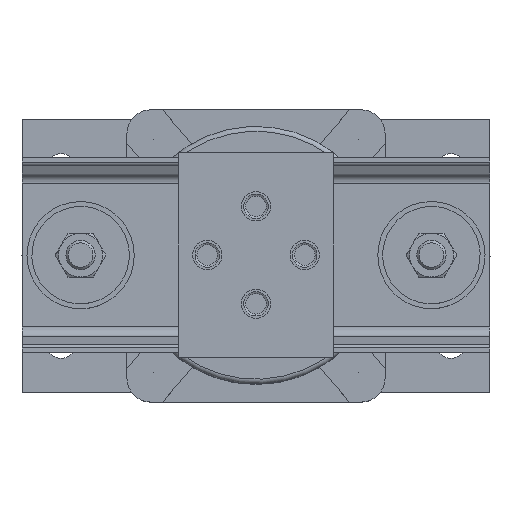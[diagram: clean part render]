
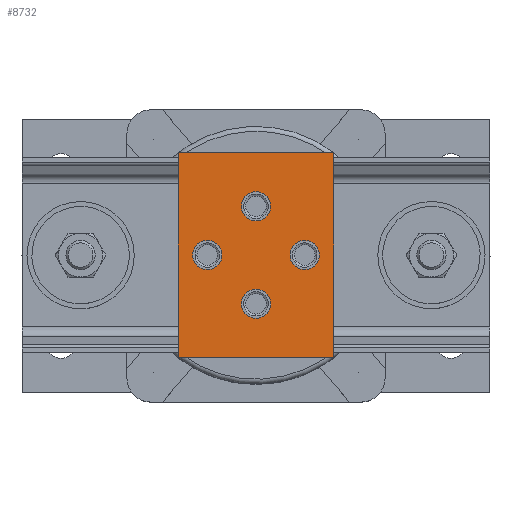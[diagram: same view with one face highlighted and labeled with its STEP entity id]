
A CAD part, top view. The second image highlights one B-rep face of the part: STEP entity #8732.
In plain terms, the highlighted planar face has unit normal (0, 0, 1).
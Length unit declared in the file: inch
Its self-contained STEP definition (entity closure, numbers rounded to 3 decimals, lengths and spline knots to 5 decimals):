
#360=LINE('',#13519,#902);
#364=LINE('',#13527,#906);
#367=LINE('',#13533,#909);
#370=LINE('',#13538,#912);
#902=VECTOR('',#10987,5.25);
#906=VECTOR('',#10993,4.);
#909=VECTOR('',#10998,5.25);
#912=VECTOR('',#11003,4.);
#1782=PLANE('',#9472);
#2022=FACE_BOUND('',#3001,.T.);
#2023=FACE_BOUND('',#3002,.T.);
#2024=FACE_BOUND('',#3003,.T.);
#2025=FACE_BOUND('',#3004,.T.);
#2376=FACE_OUTER_BOUND('',#3000,.T.);
#3000=EDGE_LOOP('',(#6665,#6666,#6667,#6668));
#3001=EDGE_LOOP('',(#6669));
#3002=EDGE_LOOP('',(#6670));
#3003=EDGE_LOOP('',(#6671));
#3004=EDGE_LOOP('',(#6672));
#3531=CIRCLE('',#9458,0.375);
#3533=CIRCLE('',#9461,0.375);
#3535=CIRCLE('',#9464,0.375);
#3537=CIRCLE('',#9467,0.375);
#4044=VERTEX_POINT('',#13499);
#4046=VERTEX_POINT('',#13504);
#4048=VERTEX_POINT('',#13509);
#4050=VERTEX_POINT('',#13514);
#4051=VERTEX_POINT('',#13517);
#4052=VERTEX_POINT('',#13518);
#4055=VERTEX_POINT('',#13526);
#4057=VERTEX_POINT('',#13532);
#4979=EDGE_CURVE('',#4044,#4044,#3531,.T.);
#4981=EDGE_CURVE('',#4046,#4046,#3533,.T.);
#4983=EDGE_CURVE('',#4048,#4048,#3535,.T.);
#4985=EDGE_CURVE('',#4050,#4050,#3537,.T.);
#4986=EDGE_CURVE('',#4051,#4052,#360,.T.);
#4990=EDGE_CURVE('',#4052,#4055,#364,.T.);
#4993=EDGE_CURVE('',#4055,#4057,#367,.T.);
#4996=EDGE_CURVE('',#4057,#4051,#370,.T.);
#6665=ORIENTED_EDGE('',*,*,#4986,.F.);
#6666=ORIENTED_EDGE('',*,*,#4996,.F.);
#6667=ORIENTED_EDGE('',*,*,#4993,.F.);
#6668=ORIENTED_EDGE('',*,*,#4990,.F.);
#6669=ORIENTED_EDGE('',*,*,#4979,.T.);
#6670=ORIENTED_EDGE('',*,*,#4981,.T.);
#6671=ORIENTED_EDGE('',*,*,#4983,.T.);
#6672=ORIENTED_EDGE('',*,*,#4985,.T.);
#8732=ADVANCED_FACE('',(#2376,#2022,#2023,#2024,#2025),#1782,.T.);
#9458=AXIS2_PLACEMENT_3D('',#13500,#10965,#10966);
#9461=AXIS2_PLACEMENT_3D('',#13505,#10971,#10972);
#9464=AXIS2_PLACEMENT_3D('',#13510,#10977,#10978);
#9467=AXIS2_PLACEMENT_3D('',#13515,#10983,#10984);
#9472=AXIS2_PLACEMENT_3D('',#13540,#11005,#11006);
#10965=DIRECTION('center_axis',(0.,0.,
-1.));
#10966=DIRECTION('ref_axis',(-1.,0.,0.));
#10971=DIRECTION('center_axis',(0.,0.,
-1.));
#10972=DIRECTION('ref_axis',(-1.,0.,0.));
#10977=DIRECTION('center_axis',(0.,0.,
-1.));
#10978=DIRECTION('ref_axis',(-1.,0.,0.));
#10983=DIRECTION('center_axis',(0.,0.,
-1.));
#10984=DIRECTION('ref_axis',(-1.,0.,0.));
#10987=DIRECTION('',(0.,1.,0.));
#10993=DIRECTION('',(1.,0.,0.));
#10998=DIRECTION('',(0.,-1.,0.));
#11003=DIRECTION('',(-1.,0.,0.));
#11005=DIRECTION('center_axis',(0.,0.,
1.));
#11006=DIRECTION('ref_axis',(-1.,0.,0.));
#13499=CARTESIAN_POINT('',(-0.375,1.25,15.125));
#13500=CARTESIAN_POINT('Origin',(0.,1.25,15.125));
#13504=CARTESIAN_POINT('',(-0.375,-1.25,15.125));
#13505=CARTESIAN_POINT('Origin',(0.,-1.25,
15.125));
#13509=CARTESIAN_POINT('',(-1.625,0.,15.125));
#13510=CARTESIAN_POINT('Origin',(-1.25,0.,
15.125));
#13514=CARTESIAN_POINT('',(0.875,0.,15.125));
#13515=CARTESIAN_POINT('Origin',(1.25,0.,15.125));
#13517=CARTESIAN_POINT('',(-2.,-2.625,15.125));
#13518=CARTESIAN_POINT('',(-2.,2.625,15.125));
#13519=CARTESIAN_POINT('',(-2.,-2.625,15.125));
#13526=CARTESIAN_POINT('',(2.,2.625,15.125));
#13527=CARTESIAN_POINT('',(-2.,2.625,15.125));
#13532=CARTESIAN_POINT('',(2.,-2.625,15.125));
#13533=CARTESIAN_POINT('',(2.,2.625,15.125));
#13538=CARTESIAN_POINT('',(2.,-2.625,15.125));
#13540=CARTESIAN_POINT('Origin',(0.,0.,
15.125));
